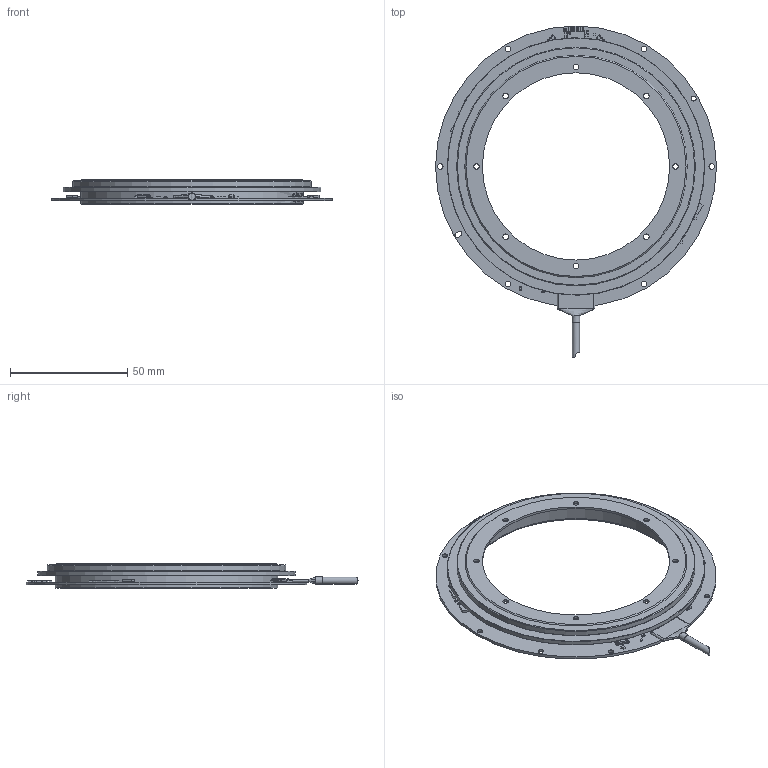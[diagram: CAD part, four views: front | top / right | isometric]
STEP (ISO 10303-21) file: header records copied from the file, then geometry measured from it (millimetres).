
FILE_DESCRIPTION(/* description */ (''),/* implementation_level */ '2;1');
FILE_NAME(/* name */ 'HPO-120K_REV.00.stp',/* time_stamp */ '2026-03-03T11:45:13+02:00',/* author */ ('DonatasG'),/* organization */ (''),/* preprocessor_version */ 'ST-DEVELOPER v20.1',/* originating_system */ 'Autodesk Inventor 2026',/* authorisation */ '');
FILE_SCHEMA (('AUTOMOTIVE_DESIGN { 1 0 10303 214 3 1 1 }'));
Products named in the file (20): HPO-120K.00.00 SB; HPO-130K.2PZM.CL3.C.PZ37S; HPO-130K_HPO-130K_production_BOARD; SOT95P280X145-5N_NCP161ASN330T1G-1; SOIC127P600X175-8N_MAX3490AEGSA-2; CAP_0603_(1608_METRIC)_Cap_Semi-3; R_0402_Res1-3; SOT23-3_SI2371EDS-T1-BE3_SI2371EDS-T1-BE3-1; QFN50P500X500X90_MM_IC_PZ-1; 0402-A5201520_Inductor-3; TSSOP8_M24C01-3; _INDC0402X22N_ESDM3051N2T5G-1; LEDC1608X80N_150060GS75003-1; CAP_0402_(1005_METRIC)_Cap_Semi-1; CAP_0402_(1005_METRIC)_Cap-1; BGA169C50P13X13_700X700X60_STM32H725AGI3-1; 1E02L0171; HPO-130K-90M-ROTOR; HPO-130K.02.01; HPO-130K.02.02
Assembly tree (78 placements, depth 3):
  HPO-120K.00.00 SB
    HPO-130K.2PZM.CL3.C.PZ37S
      HPO-130K_HPO-130K_production_BOARD
      SOT95P280X145-5N_NCP161ASN330T1G-1
      SOIC127P600X175-8N_MAX3490AEGSA-2
      CAP_0603_(1608_METRIC)_Cap_Semi-3
      R_0402_Res1-3  x11
      SOT23-3_SI2371EDS-T1-BE3_SI2371EDS-T1-BE3-1
      QFN50P500X500X90_MM_IC_PZ-1  x2
      0402-A5201520_Inductor-3  x4
      TSSOP8_M24C01-3  x2
      _INDC0402X22N_ESDM3051N2T5G-1
      LEDC1608X80N_150060GS75003-1
      CAP_0402_(1005_METRIC)_Cap_Semi-1  x44
      CAP_0402_(1005_METRIC)_Cap-1  x2
      BGA169C50P13X13_700X700X60_STM32H725AGI3-1
    1E02L0171
    HPO-130K-90M-ROTOR
      HPO-130K.02.01
      HPO-130K.02.02
Bounding box: 120 x 141.82 x 10.5 mm (x, y, z)
Volume: 21008.6 mm3; surface area: 28162.1 mm2
Topology: 380 solids, 380 shells, 1743 faces, 3984 edges, 2681 vertices
Faces by surface type: plane 1387, sphere 173, cylinder 161, cone 11, bspline 7, torus 4
Full cylindrical faces by diameter (mm): 0.163 x1, 0.6 x16, 0.8 x8, 0.875 x1, 2.1 x1, 2.4 x14, 3 x1, 3.2 x1, 80 x1, 90 x1, 90.6 x1, 94.4 x1, 95 x1, 96 x2, 102 x1, 102.92 x1, 107.72 x1, 110 x1, 120 x1
Entity records: 23537 total; most frequent: CARTESIAN_POINT 4342, DIRECTION 3763, ORIENTED_EDGE 3276, EDGE_CURVE 1638, AXIS2_PLACEMENT_3D 1372, VERTEX_POINT 1345, LINE 1019, VECTOR 1019
